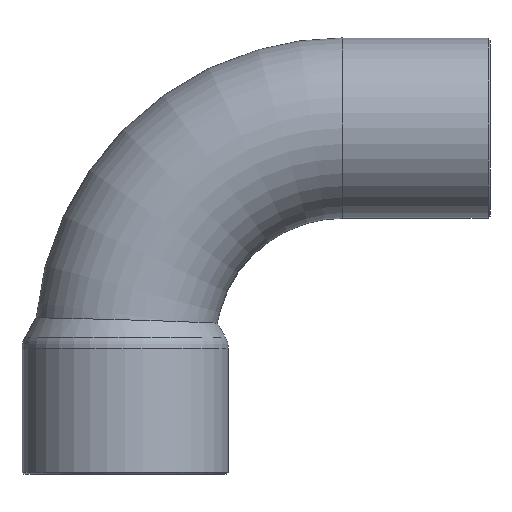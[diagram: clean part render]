
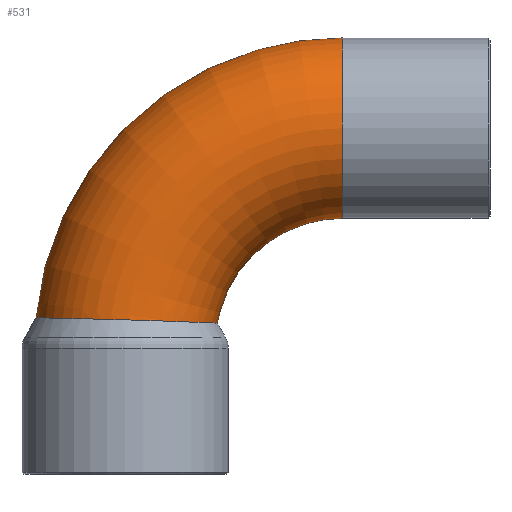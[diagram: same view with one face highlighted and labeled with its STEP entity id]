
A CAD part, left-side view. The second image highlights one B-rep face of the part: STEP entity #531.
In plain terms, the highlighted toroidal (fillet/blend) face has major radius 22.9 mm and minor radius 9.525 mm.
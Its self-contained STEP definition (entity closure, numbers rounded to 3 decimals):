
#380=CARTESIAN_POINT('',(0.,32.295,2.896));
#381=VERTEX_POINT('',#380);
#382=CARTESIAN_POINT('',(0.,32.295,2.896));
#383=CARTESIAN_POINT('',(-0.64,32.295,2.896));
#384=CARTESIAN_POINT('',(-1.279,32.231,2.895));
#385=CARTESIAN_POINT('',(-2.522,31.976,2.89));
#386=CARTESIAN_POINT('',(-3.125,31.789,2.886));
#387=CARTESIAN_POINT('',(-4.865,31.053,2.871));
#388=CARTESIAN_POINT('',(-5.916,30.337,2.856));
#389=CARTESIAN_POINT('',(-7.679,28.536,2.817));
#390=CARTESIAN_POINT('',(-8.374,27.469,2.792));
#391=CARTESIAN_POINT('',(-9.31,25.125,2.735));
#392=CARTESIAN_POINT('',(-9.542,23.871,2.702));
#393=CARTESIAN_POINT('',(-9.506,21.34,2.63));
#394=CARTESIAN_POINT('',(-9.237,20.088,2.591));
#395=CARTESIAN_POINT('',(-8.241,17.792,2.513));
#396=CARTESIAN_POINT('',(-7.536,16.765,2.474));
#397=CARTESIAN_POINT('',(-5.863,15.122,2.409));
#398=CARTESIAN_POINT('',(-4.942,14.488,2.381));
#399=CARTESIAN_POINT('',(-3.138,13.665,2.344));
#400=CARTESIAN_POINT('',(-2.298,13.414,2.332));
#401=CARTESIAN_POINT('',(-0.92,13.203,2.322));
#402=CARTESIAN_POINT('',(-0.4,13.166,2.32));
#403=CARTESIAN_POINT('',(0.663,13.18,2.321));
#404=CARTESIAN_POINT('',(1.203,13.233,2.323));
#405=CARTESIAN_POINT('',(2.745,13.521,2.337));
#406=CARTESIAN_POINT('',(3.717,13.872,2.354));
#407=CARTESIAN_POINT('',(5.716,14.986,2.403));
#408=CARTESIAN_POINT('',(6.684,15.813,2.437));
#409=CARTESIAN_POINT('',(8.211,17.749,2.511));
#410=CARTESIAN_POINT('',(8.772,18.827,2.549));
#411=CARTESIAN_POINT('',(9.455,21.101,2.622));
#412=CARTESIAN_POINT('',(9.585,22.274,2.657));
#413=CARTESIAN_POINT('',(9.415,24.604,2.721));
#414=CARTESIAN_POINT('',(9.119,25.742,2.75));
#415=CARTESIAN_POINT('',(8.126,27.866,2.801));
#416=CARTESIAN_POINT('',(7.434,28.833,2.823));
#417=CARTESIAN_POINT('',(5.715,30.48,2.859));
#418=CARTESIAN_POINT('',(4.699,31.14,2.873));
#419=CARTESIAN_POINT('',(2.447,32.057,2.892));
#420=CARTESIAN_POINT('',(1.23,32.295,2.896));
#421=CARTESIAN_POINT('',(0.0,32.295,2.896));
#422=B_SPLINE_CURVE_WITH_KNOTS('',3,(#382,#383,#384,#385,#386,#387,#388,#389,#390,#391,#392,#393,#394,#395,#396,#397,#398,#399,#400,#401,#402,#403,#404,#405,#406,#407,#408,#409,#410,#411,#412,#413,#414,#415,#416,#417,#418,#419,#420,#421),.UNSPECIFIED.,.T.,.U.,(4,2,2,2,2,2,2,2,2,2,2,2,2,2,2,2,2,2,2,4),(-6.013,-5.821,-5.632,-5.254,-4.876,-4.497,-4.116,-3.746,-3.413,-3.151,-2.995,-2.832,-2.524,-2.145,-1.784,-1.433,-1.083,-0.729,-0.369,0.0),.UNSPECIFIED.);
#423=EDGE_CURVE('',#381,#381,#422,.T.);
#512=CARTESIAN_POINT('',(0.0,0.0,0.0));
#513=DIRECTION('',(1.0,0.0,0.0));
#514=DIRECTION('',(0.0,0.0,-1.0));
#515=AXIS2_PLACEMENT_3D('',#512,#513,#514);
#516=TOROIDAL_SURFACE('',#515,22.9,9.525);
#517=CARTESIAN_POINT('',(9.525,0.,22.9));
#518=VERTEX_POINT('',#517);
#519=CARTESIAN_POINT('',(0.0,0.,22.9));
#520=DIRECTION('',(0.0,1.0,0.0));
#521=DIRECTION('',(-1.0,0.0,0.0));
#522=AXIS2_PLACEMENT_3D('',#519,#520,#521);
#523=CIRCLE('',#522,9.525);
#524=EDGE_CURVE('',#518,#518,#523,.T.);
#525=ORIENTED_EDGE('',*,*,#524,.T.);
#526=EDGE_LOOP('',(#525));
#527=FACE_OUTER_BOUND('',#526,.T.);
#528=ORIENTED_EDGE('',*,*,#423,.T.);
#529=EDGE_LOOP('',(#528));
#530=FACE_BOUND('',#529,.T.);
#531=ADVANCED_FACE('',(#527,#530),#516,.T.);
